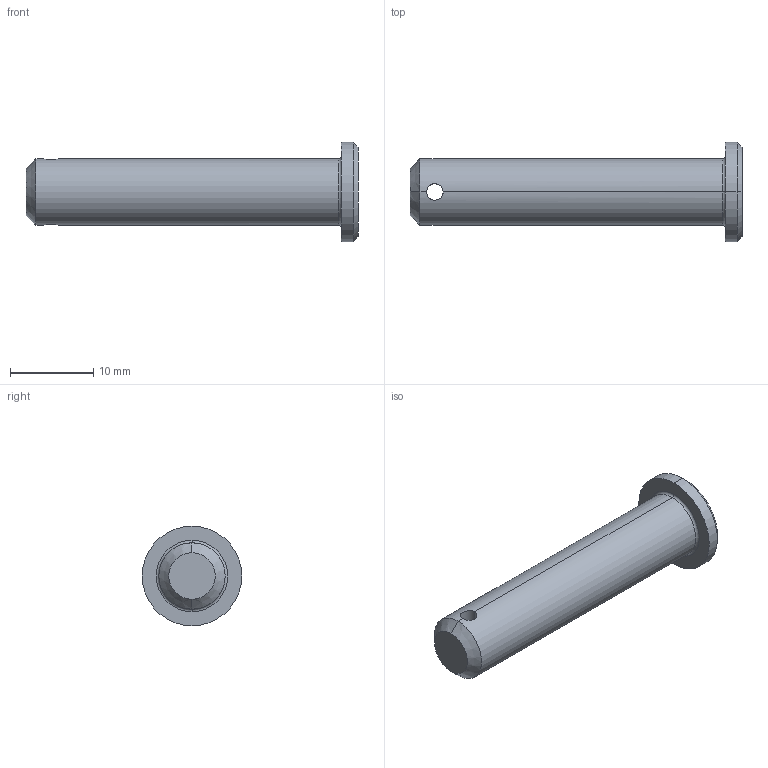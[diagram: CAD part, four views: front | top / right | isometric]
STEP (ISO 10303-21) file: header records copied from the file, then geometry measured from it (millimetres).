
FILE_DESCRIPTION (( 'STEP AP203' ), '1' );
FILE_NAME ('Wiberger-sms2360_8x38.step', '2012-10-09T08:59:02', ( 'Magnus' ), ( 'Wiberger' ), 'SwSTEP 2.0', 'SolidWorks 2011', '' );
FILE_SCHEMA (( 'CONFIG_CONTROL_DESIGN' ));
Length unit declared in the file: millimetre
Products named in the file (1): Wiberger-sms2360_8x38
Bounding box: 40 x 12 x 12 mm (x, y, z)
Volume: 2089 mm3; surface area: 1263.3 mm2
Topology: 1 solids, 1 shells, 15 faces, 32 edges, 18 vertices
Faces by surface type: cylinder 6, cone 4, plane 3, torus 2
Entity records: 543 total; most frequent: CARTESIAN_POINT 134, DIRECTION 76, ORIENTED_EDGE 64, EDGE_CURVE 32, AXIS2_PLACEMENT_3D 32, VERTEX_POINT 18, EDGE_LOOP 16, CIRCLE 16
